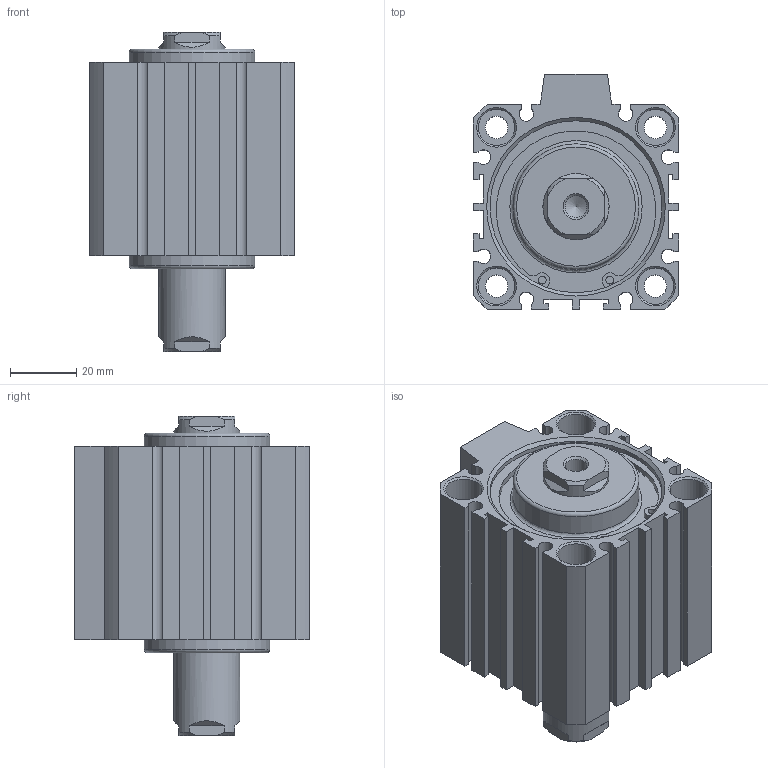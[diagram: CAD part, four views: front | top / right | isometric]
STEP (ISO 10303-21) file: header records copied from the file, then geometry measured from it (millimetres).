
FILE_DESCRIPTION((''),'2;1');
FILE_NAME('I:\3D電子目錄\氣缸\JDD\JDD-S\JDD50-S\JDD50x20-S.stp','2007-02-09T08:39:49',('662F206'),(''),'Autodesk Inventor 10','Autodesk Inventor 10','');
FILE_SCHEMA(('AUTOMOTIVE_DESIGN { 1 0 10303 214 1 1 1 1 }'));
Length unit declared in the file: millimetre
Products named in the file (3): JDD50-S; R 形環 52
Assembly tree (3 placements, depth 2):
  JDD50-S
    JDD50-S
    R 形環 52  x2
Bounding box: 62 x 71 x 96.6 mm (x, y, z)
Volume: 210892.8 mm3; surface area: 46745.7 mm2
Topology: 3 solids, 3 shells, 200 faces, 502 edges, 330 vertices
Faces by surface type: plane 116, cylinder 52, cone 24, bspline 6, torus 2
Full cylindrical faces by diameter (mm): 2.3 x4, 2.7 x2, 6.8 x4, 11 x8, 20 x2, 38 x2, 52 x4, 55 x2
Entity records: 5511 total; most frequent: CARTESIAN_POINT 1094, DIRECTION 908, ORIENTED_EDGE 824, EDGE_CURVE 412, AXIS2_PLACEMENT_3D 324, VERTEX_POINT 300, EDGE_LOOP 272, VECTOR 260
